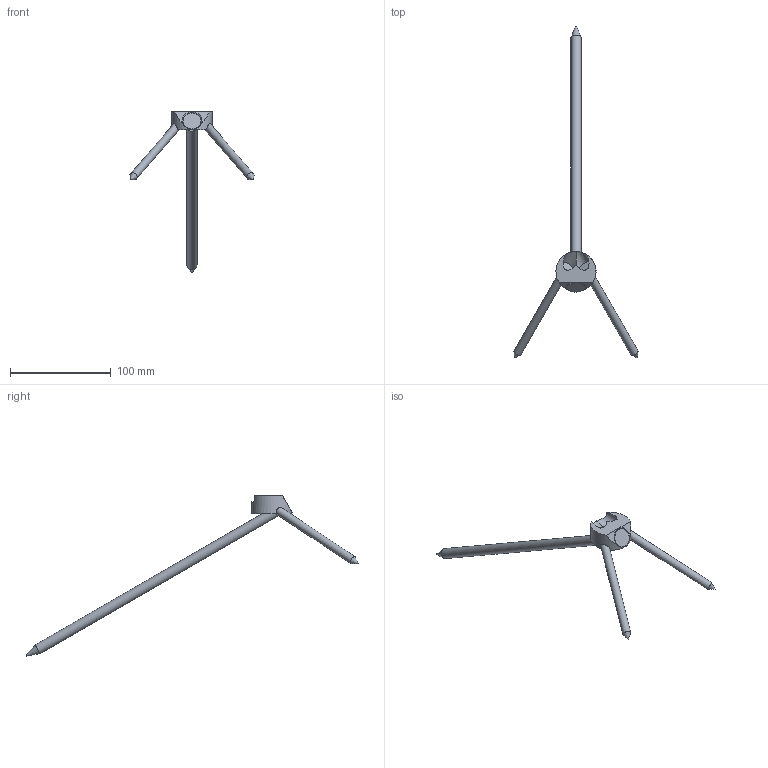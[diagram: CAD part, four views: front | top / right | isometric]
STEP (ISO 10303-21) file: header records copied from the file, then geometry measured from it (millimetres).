
FILE_DESCRIPTION(/* description */ ('Unknown'),/* implementation_level */ '2;1');
FILE_NAME(/* name */ 'T-JOINT D40_W30_2xSK 8x200_1xSK 10x 300',/* time_stamp */ '2022-02-04T10:09:21+01:00',/* author */ ('Unknown'),/* organization */ ('Unknown'),/* preprocessor_version */ 'ST-DEVELOPER v16.7',/* originating_system */ 'Solid Edge',/* authorisation */ 'Unknown');
FILE_SCHEMA (('AUTOMOTIVE_DESIGN {1 0 10303 214 3 1 1}'));
Length unit declared in the file: millimetre
Products named in the file (4): T_JOINT_D40_W30_2x SK8x200_1xSK10x300; T-Joint_D40_W30; SK_Schraube_8x200; SK Schraube 10x300_ohne_Gewinde_22042020
Assembly tree (4 placements, depth 2):
  T_JOINT_D40_W30_2x SK8x200_1xSK10x300
    T-Joint_D40_W30
    SK_Schraube_8x200  x2
    SK Schraube 10x300_ohne_Gewinde_22042020
Bounding box: 123.24 x 329.94 x 159.36 mm (x, y, z)
Volume: 47004.5 mm3; surface area: 22127.7 mm2
Topology: 4 solids, 4 shells, 33 faces, 76 edges, 46 vertices
Faces by surface type: cylinder 14, plane 9, cone 9, torus 1
Full cylindrical faces by diameter (mm): 6.3 x1, 8 x2, 8.5 x2, 10 x2, 12.5 x1, 15 x2, 15.5 x2, 18 x1, 39.8 x1
Entity records: 803 total; most frequent: CARTESIAN_POINT 154, DIRECTION 131, ORIENTED_EDGE 76, AXIS2_PLACEMENT_3D 65, FACE_BOUND 51, EDGE_LOOP 50, EDGE_CURVE 38, VERTEX_POINT 33
